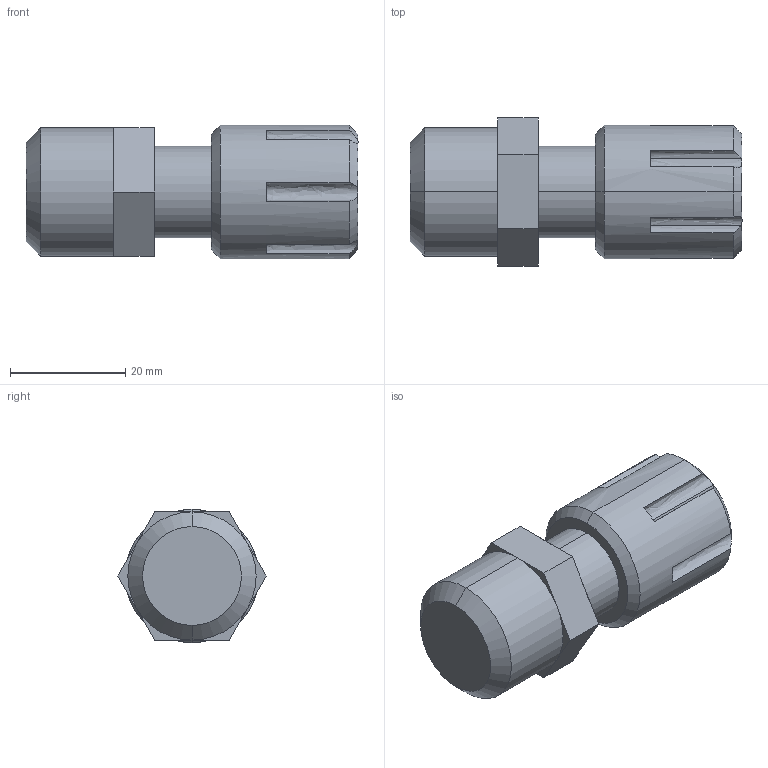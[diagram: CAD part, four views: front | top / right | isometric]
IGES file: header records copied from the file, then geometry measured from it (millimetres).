
Start section: SolidWorks IGES file using analytic representation for surfaces
Global section: file name: S:\Product Visuals\Defeatured Models\Parts Library\Liquid Fittings\Front Mount liquid Fittings\Flaretek Compatible\30LPM\Fitting Flaretek Compatible  06.IGS; native system: SolidWorks 2012; preprocessor: SolidWorks 2012; author: rachel.dressel; date: 120926.081123; units: inch
Bounding box: 57.53 x 25.66 x 23.11 mm (x, y, z)
Volume: 20504.8 mm3; surface area: 5270.1 mm2
Topology: 1 solids, 1 shells, 58 faces, 138 edges, 85 vertices
Faces by surface type: revolution 29, plane 29
